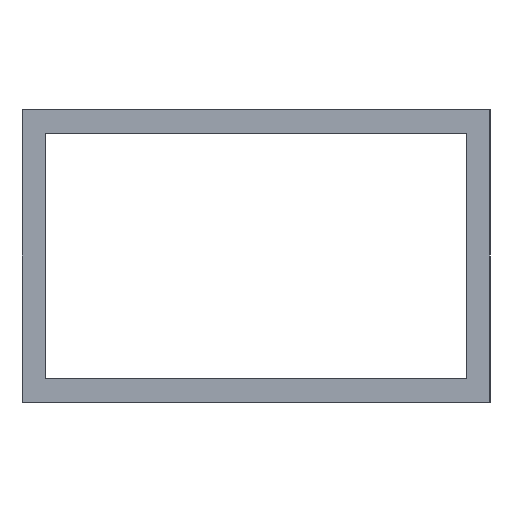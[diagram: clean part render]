
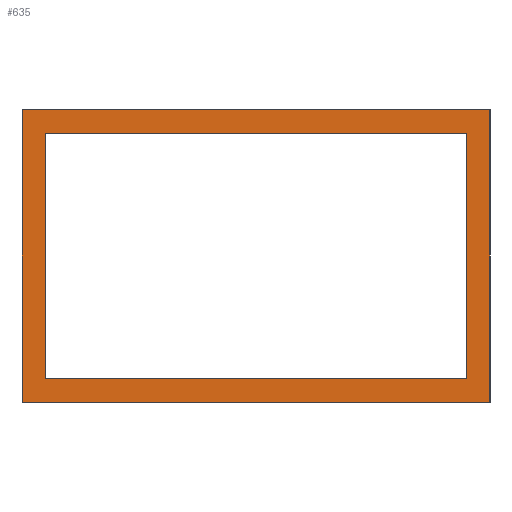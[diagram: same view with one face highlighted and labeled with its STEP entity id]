
A CAD part, left-side view. The second image highlights one B-rep face of the part: STEP entity #635.
In plain terms, the highlighted planar face has unit normal (-1, 0, 0).
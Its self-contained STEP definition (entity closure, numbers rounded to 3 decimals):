
#22 = VERTEX_POINT('',#23);
#23 = CARTESIAN_POINT('',(-1872.,470.,877.));
#32 = PLANE('',#33);
#33 = AXIS2_PLACEMENT_3D('',#34,#35,#36);
#34 = CARTESIAN_POINT('',(-1872.,470.,877.));
#35 = DIRECTION('',(0.,0.,1.));
#36 = DIRECTION('',(0.,1.,0.));
#44 = PLANE('',#45);
#45 = AXIS2_PLACEMENT_3D('',#46,#47,#48);
#46 = CARTESIAN_POINT('',(-1872.,470.,977.));
#47 = DIRECTION('',(-0.,1.,0.));
#48 = DIRECTION('',(0.,0.,-1.));
#85 = VERTEX_POINT('',#86);
#86 = CARTESIAN_POINT('',(-1872.,630.,877.));
#100 = PLANE('',#101);
#101 = AXIS2_PLACEMENT_3D('',#102,#103,#104);
#102 = CARTESIAN_POINT('',(-1872.,630.,877.));
#103 = DIRECTION('',(0.,-1.,0.));
#104 = DIRECTION('',(0.,0.,1.));
#112 = EDGE_CURVE('',#22,#85,#113,.T.);
#113 = SURFACE_CURVE('',#114,(#118,#125),.PCURVE_S1.);
#114 = LINE('',#115,#116);
#115 = CARTESIAN_POINT('',(-1872.,470.,877.));
#116 = VECTOR('',#117,1.);
#117 = DIRECTION('',(0.,1.,0.));
#118 = PCURVE('',#32,#119);
#119 = DEFINITIONAL_REPRESENTATION('',(#120),#124);
#120 = LINE('',#121,#122);
#121 = CARTESIAN_POINT('',(0.,0.));
#122 = VECTOR('',#123,1.);
#123 = DIRECTION('',(1.,0.));
#124 = ( GEOMETRIC_REPRESENTATION_CONTEXT(2) 
PARAMETRIC_REPRESENTATION_CONTEXT() REPRESENTATION_CONTEXT('2D SPACE',''
  ) );
#125 = PCURVE('',#126,#131);
#126 = PLANE('',#127);
#127 = AXIS2_PLACEMENT_3D('',#128,#129,#130);
#128 = CARTESIAN_POINT('',(-1872.,550.,927.));
#129 = DIRECTION('',(1.,0.,0.));
#130 = DIRECTION('',(-0.,0.,1.));
#131 = DEFINITIONAL_REPRESENTATION('',(#132),#136);
#132 = LINE('',#133,#134);
#133 = CARTESIAN_POINT('',(-50.,80.));
#134 = VECTOR('',#135,1.);
#135 = DIRECTION('',(0.,-1.));
#136 = ( GEOMETRIC_REPRESENTATION_CONTEXT(2) 
PARAMETRIC_REPRESENTATION_CONTEXT() REPRESENTATION_CONTEXT('2D SPACE',''
  ) );
#166 = VERTEX_POINT('',#167);
#167 = CARTESIAN_POINT('',(-1872.,630.,977.));
#181 = PLANE('',#182);
#182 = AXIS2_PLACEMENT_3D('',#183,#184,#185);
#183 = CARTESIAN_POINT('',(-1872.,630.,977.));
#184 = DIRECTION('',(0.,0.,-1.));
#185 = DIRECTION('',(0.,-1.,0.));
#193 = EDGE_CURVE('',#85,#166,#194,.T.);
#194 = SURFACE_CURVE('',#195,(#199,#206),.PCURVE_S1.);
#195 = LINE('',#196,#197);
#196 = CARTESIAN_POINT('',(-1872.,630.,877.));
#197 = VECTOR('',#198,1.);
#198 = DIRECTION('',(0.,0.,1.));
#199 = PCURVE('',#100,#200);
#200 = DEFINITIONAL_REPRESENTATION('',(#201),#205);
#201 = LINE('',#202,#203);
#202 = CARTESIAN_POINT('',(0.,0.));
#203 = VECTOR('',#204,1.);
#204 = DIRECTION('',(1.,0.));
#205 = ( GEOMETRIC_REPRESENTATION_CONTEXT(2) 
PARAMETRIC_REPRESENTATION_CONTEXT() REPRESENTATION_CONTEXT('2D SPACE',''
  ) );
#206 = PCURVE('',#126,#207);
#207 = DEFINITIONAL_REPRESENTATION('',(#208),#212);
#208 = LINE('',#209,#210);
#209 = CARTESIAN_POINT('',(-50.,-80.));
#210 = VECTOR('',#211,1.);
#211 = DIRECTION('',(1.,0.));
#212 = ( GEOMETRIC_REPRESENTATION_CONTEXT(2) 
PARAMETRIC_REPRESENTATION_CONTEXT() REPRESENTATION_CONTEXT('2D SPACE',''
  ) );
#242 = VERTEX_POINT('',#243);
#243 = CARTESIAN_POINT('',(-1872.,470.,977.));
#264 = EDGE_CURVE('',#166,#242,#265,.T.);
#265 = SURFACE_CURVE('',#266,(#270,#277),.PCURVE_S1.);
#266 = LINE('',#267,#268);
#267 = CARTESIAN_POINT('',(-1872.,630.,977.));
#268 = VECTOR('',#269,1.);
#269 = DIRECTION('',(0.,-1.,0.));
#270 = PCURVE('',#181,#271);
#271 = DEFINITIONAL_REPRESENTATION('',(#272),#276);
#272 = LINE('',#273,#274);
#273 = CARTESIAN_POINT('',(0.,-0.));
#274 = VECTOR('',#275,1.);
#275 = DIRECTION('',(1.,0.));
#276 = ( GEOMETRIC_REPRESENTATION_CONTEXT(2) 
PARAMETRIC_REPRESENTATION_CONTEXT() REPRESENTATION_CONTEXT('2D SPACE',''
  ) );
#277 = PCURVE('',#126,#278);
#278 = DEFINITIONAL_REPRESENTATION('',(#279),#283);
#279 = LINE('',#280,#281);
#280 = CARTESIAN_POINT('',(50.,-80.));
#281 = VECTOR('',#282,1.);
#282 = DIRECTION('',(0.,1.));
#283 = ( GEOMETRIC_REPRESENTATION_CONTEXT(2) 
PARAMETRIC_REPRESENTATION_CONTEXT() REPRESENTATION_CONTEXT('2D SPACE',''
  ) );
#311 = EDGE_CURVE('',#242,#22,#312,.T.);
#312 = SURFACE_CURVE('',#313,(#317,#324),.PCURVE_S1.);
#313 = LINE('',#314,#315);
#314 = CARTESIAN_POINT('',(-1872.,470.,977.));
#315 = VECTOR('',#316,1.);
#316 = DIRECTION('',(0.,0.,-1.));
#317 = PCURVE('',#44,#318);
#318 = DEFINITIONAL_REPRESENTATION('',(#319),#323);
#319 = LINE('',#320,#321);
#320 = CARTESIAN_POINT('',(0.,0.));
#321 = VECTOR('',#322,1.);
#322 = DIRECTION('',(1.,0.));
#323 = ( GEOMETRIC_REPRESENTATION_CONTEXT(2) 
PARAMETRIC_REPRESENTATION_CONTEXT() REPRESENTATION_CONTEXT('2D SPACE',''
  ) );
#324 = PCURVE('',#126,#325);
#325 = DEFINITIONAL_REPRESENTATION('',(#326),#330);
#326 = LINE('',#327,#328);
#327 = CARTESIAN_POINT('',(50.,80.));
#328 = VECTOR('',#329,1.);
#329 = DIRECTION('',(-1.,0.));
#330 = ( GEOMETRIC_REPRESENTATION_CONTEXT(2) 
PARAMETRIC_REPRESENTATION_CONTEXT() REPRESENTATION_CONTEXT('2D SPACE',''
  ) );
#336 = VERTEX_POINT('',#337);
#337 = CARTESIAN_POINT('',(-1872.,478.,969.));
#346 = PLANE('',#347);
#347 = AXIS2_PLACEMENT_3D('',#348,#349,#350);
#348 = CARTESIAN_POINT('',(-1872.,478.,969.));
#349 = DIRECTION('',(-0.,1.,0.));
#350 = DIRECTION('',(0.,0.,-1.));
#358 = PLANE('',#359);
#359 = AXIS2_PLACEMENT_3D('',#360,#361,#362);
#360 = CARTESIAN_POINT('',(-1872.,622.,969.));
#361 = DIRECTION('',(0.,0.,-1.));
#362 = DIRECTION('',(0.,-1.,0.));
#394 = VERTEX_POINT('',#395);
#395 = CARTESIAN_POINT('',(-1872.,478.,885.));
#409 = PLANE('',#410);
#410 = AXIS2_PLACEMENT_3D('',#411,#412,#413);
#411 = CARTESIAN_POINT('',(-1872.,478.,885.));
#412 = DIRECTION('',(0.,0.,1.));
#413 = DIRECTION('',(0.,1.,0.));
#421 = EDGE_CURVE('',#336,#394,#422,.T.);
#422 = SURFACE_CURVE('',#423,(#427,#434),.PCURVE_S1.);
#423 = LINE('',#424,#425);
#424 = CARTESIAN_POINT('',(-1872.,478.,969.));
#425 = VECTOR('',#426,1.);
#426 = DIRECTION('',(0.,0.,-1.));
#427 = PCURVE('',#346,#428);
#428 = DEFINITIONAL_REPRESENTATION('',(#429),#433);
#429 = LINE('',#430,#431);
#430 = CARTESIAN_POINT('',(0.,0.));
#431 = VECTOR('',#432,1.);
#432 = DIRECTION('',(1.,0.));
#433 = ( GEOMETRIC_REPRESENTATION_CONTEXT(2) 
PARAMETRIC_REPRESENTATION_CONTEXT() REPRESENTATION_CONTEXT('2D SPACE',''
  ) );
#434 = PCURVE('',#126,#435);
#435 = DEFINITIONAL_REPRESENTATION('',(#436),#440);
#436 = LINE('',#437,#438);
#437 = CARTESIAN_POINT('',(42.,72.));
#438 = VECTOR('',#439,1.);
#439 = DIRECTION('',(-1.,0.));
#440 = ( GEOMETRIC_REPRESENTATION_CONTEXT(2) 
PARAMETRIC_REPRESENTATION_CONTEXT() REPRESENTATION_CONTEXT('2D SPACE',''
  ) );
#446 = VERTEX_POINT('',#447);
#447 = CARTESIAN_POINT('',(-1872.,622.,969.));
#463 = PLANE('',#464);
#464 = AXIS2_PLACEMENT_3D('',#465,#466,#467);
#465 = CARTESIAN_POINT('',(-1872.,622.,885.));
#466 = DIRECTION('',(0.,-1.,0.));
#467 = DIRECTION('',(0.,0.,1.));
#497 = EDGE_CURVE('',#446,#336,#498,.T.);
#498 = SURFACE_CURVE('',#499,(#503,#510),.PCURVE_S1.);
#499 = LINE('',#500,#501);
#500 = CARTESIAN_POINT('',(-1872.,622.,969.));
#501 = VECTOR('',#502,1.);
#502 = DIRECTION('',(0.,-1.,0.));
#503 = PCURVE('',#358,#504);
#504 = DEFINITIONAL_REPRESENTATION('',(#505),#509);
#505 = LINE('',#506,#507);
#506 = CARTESIAN_POINT('',(0.,-0.));
#507 = VECTOR('',#508,1.);
#508 = DIRECTION('',(1.,0.));
#509 = ( GEOMETRIC_REPRESENTATION_CONTEXT(2) 
PARAMETRIC_REPRESENTATION_CONTEXT() REPRESENTATION_CONTEXT('2D SPACE',''
  ) );
#510 = PCURVE('',#126,#511);
#511 = DEFINITIONAL_REPRESENTATION('',(#512),#516);
#512 = LINE('',#513,#514);
#513 = CARTESIAN_POINT('',(42.,-72.));
#514 = VECTOR('',#515,1.);
#515 = DIRECTION('',(0.,1.));
#516 = ( GEOMETRIC_REPRESENTATION_CONTEXT(2) 
PARAMETRIC_REPRESENTATION_CONTEXT() REPRESENTATION_CONTEXT('2D SPACE',''
  ) );
#522 = VERTEX_POINT('',#523);
#523 = CARTESIAN_POINT('',(-1872.,622.,885.));
#568 = EDGE_CURVE('',#522,#446,#569,.T.);
#569 = SURFACE_CURVE('',#570,(#574,#581),.PCURVE_S1.);
#570 = LINE('',#571,#572);
#571 = CARTESIAN_POINT('',(-1872.,622.,885.));
#572 = VECTOR('',#573,1.);
#573 = DIRECTION('',(0.,0.,1.));
#574 = PCURVE('',#463,#575);
#575 = DEFINITIONAL_REPRESENTATION('',(#576),#580);
#576 = LINE('',#577,#578);
#577 = CARTESIAN_POINT('',(0.,0.));
#578 = VECTOR('',#579,1.);
#579 = DIRECTION('',(1.,0.));
#580 = ( GEOMETRIC_REPRESENTATION_CONTEXT(2) 
PARAMETRIC_REPRESENTATION_CONTEXT() REPRESENTATION_CONTEXT('2D SPACE',''
  ) );
#581 = PCURVE('',#126,#582);
#582 = DEFINITIONAL_REPRESENTATION('',(#583),#587);
#583 = LINE('',#584,#585);
#584 = CARTESIAN_POINT('',(-42.,-72.));
#585 = VECTOR('',#586,1.);
#586 = DIRECTION('',(1.,0.));
#587 = ( GEOMETRIC_REPRESENTATION_CONTEXT(2) 
PARAMETRIC_REPRESENTATION_CONTEXT() REPRESENTATION_CONTEXT('2D SPACE',''
  ) );
#615 = EDGE_CURVE('',#394,#522,#616,.T.);
#616 = SURFACE_CURVE('',#617,(#621,#628),.PCURVE_S1.);
#617 = LINE('',#618,#619);
#618 = CARTESIAN_POINT('',(-1872.,478.,885.));
#619 = VECTOR('',#620,1.);
#620 = DIRECTION('',(0.,1.,0.));
#621 = PCURVE('',#409,#622);
#622 = DEFINITIONAL_REPRESENTATION('',(#623),#627);
#623 = LINE('',#624,#625);
#624 = CARTESIAN_POINT('',(0.,0.));
#625 = VECTOR('',#626,1.);
#626 = DIRECTION('',(1.,0.));
#627 = ( GEOMETRIC_REPRESENTATION_CONTEXT(2) 
PARAMETRIC_REPRESENTATION_CONTEXT() REPRESENTATION_CONTEXT('2D SPACE',''
  ) );
#628 = PCURVE('',#126,#629);
#629 = DEFINITIONAL_REPRESENTATION('',(#630),#634);
#630 = LINE('',#631,#632);
#631 = CARTESIAN_POINT('',(-42.,72.));
#632 = VECTOR('',#633,1.);
#633 = DIRECTION('',(0.,-1.));
#634 = ( GEOMETRIC_REPRESENTATION_CONTEXT(2) 
PARAMETRIC_REPRESENTATION_CONTEXT() REPRESENTATION_CONTEXT('2D SPACE',''
  ) );
#635 = ADVANCED_FACE('',(#636,#642),#126,.F.);
#636 = FACE_BOUND('',#637,.F.);
#637 = EDGE_LOOP('',(#638,#639,#640,#641));
#638 = ORIENTED_EDGE('',*,*,#112,.T.);
#639 = ORIENTED_EDGE('',*,*,#193,.T.);
#640 = ORIENTED_EDGE('',*,*,#264,.T.);
#641 = ORIENTED_EDGE('',*,*,#311,.T.);
#642 = FACE_BOUND('',#643,.F.);
#643 = EDGE_LOOP('',(#644,#645,#646,#647));
#644 = ORIENTED_EDGE('',*,*,#421,.F.);
#645 = ORIENTED_EDGE('',*,*,#497,.F.);
#646 = ORIENTED_EDGE('',*,*,#568,.F.);
#647 = ORIENTED_EDGE('',*,*,#615,.F.);
